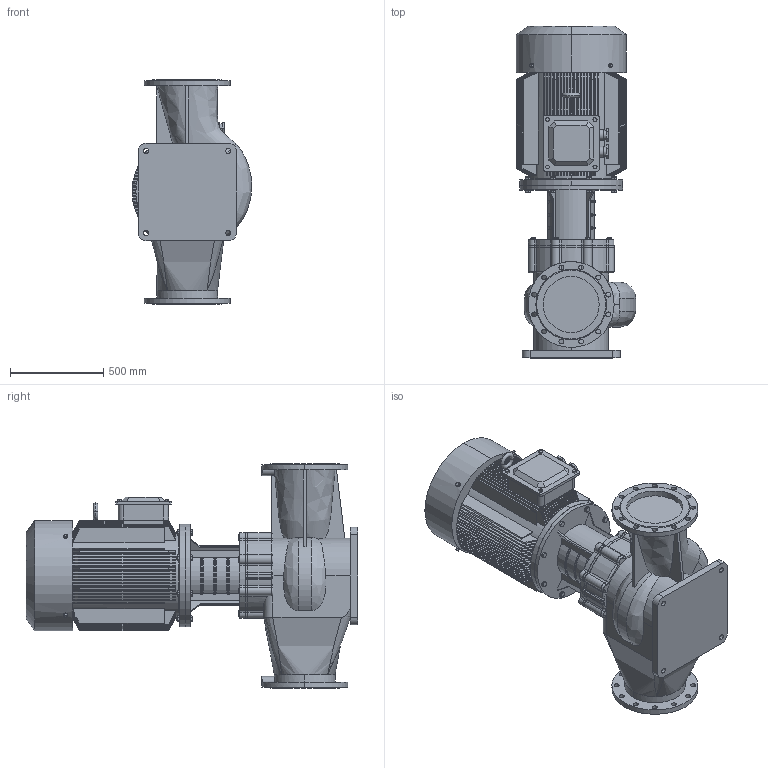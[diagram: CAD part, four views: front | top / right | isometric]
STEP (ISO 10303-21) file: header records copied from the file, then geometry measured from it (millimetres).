
FILE_DESCRIPTION(/* description */ (''),/* implementation_level */ '2;1');
FILE_NAME(/* name */ 'TD300-20-4安装尺寸图.stp',/* time_stamp */ '2026-09-07T17:17:24+08:00',/* author */ (''),/* organization */ (''),/* preprocessor_version */ 'ST-DEVELOPER v16.7',/* originating_system */ 'SIEMENS PLM Software NX 1847',/* authorisation */ '');
FILE_SCHEMA (('AP203_CONFIGURATION_CONTROLLED_3D_DESIGN_OF_MECHANICAL_PARTS_AND_ASSEMBLIES_MIM_LF { 1 0 10303 403 2 1 2}'));
Products named in the file (1): Admi55F8EAC4z60o
Bounding box: 641.4 x 1777 x 1200 mm (x, y, z)
Volume: 414732043 mm3; surface area: 11412139.6 mm2
Topology: 1 solids, 10 shells, 1787 faces, 4357 edges, 2668 vertices
Faces by surface type: plane 645, cone 507, cylinder 502, torus 81, bspline 28, sphere 24
Full cylindrical faces by diameter (mm): 15.682 x8, 17.623 x16, 22.49 x8, 25.34 x8, 300 x1, 550 x1
Entity records: 59797 total; most frequent: CARTESIAN_POINT 18897, ORIENTED_EDGE 8530, DIRECTION 8447, EDGE_CURVE 4265, AXIS2_PLACEMENT_3D 3447, VERTEX_POINT 2651, EDGE_LOOP 2032, ADVANCED_FACE 1787
